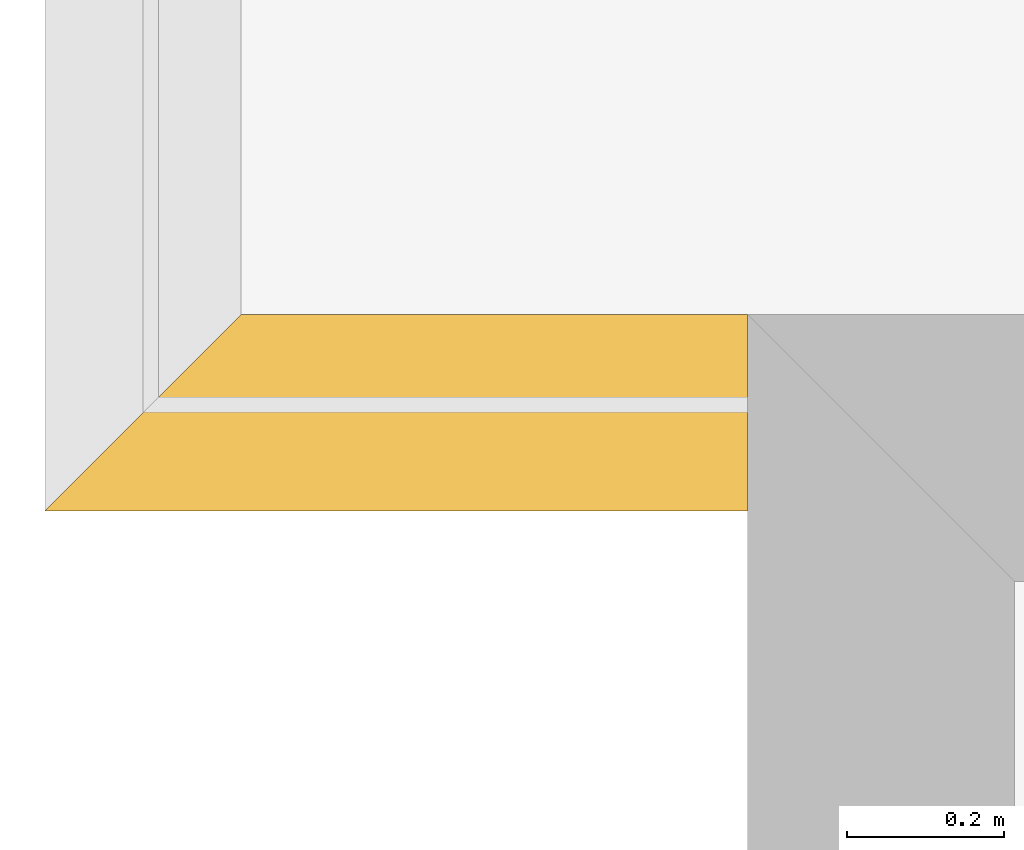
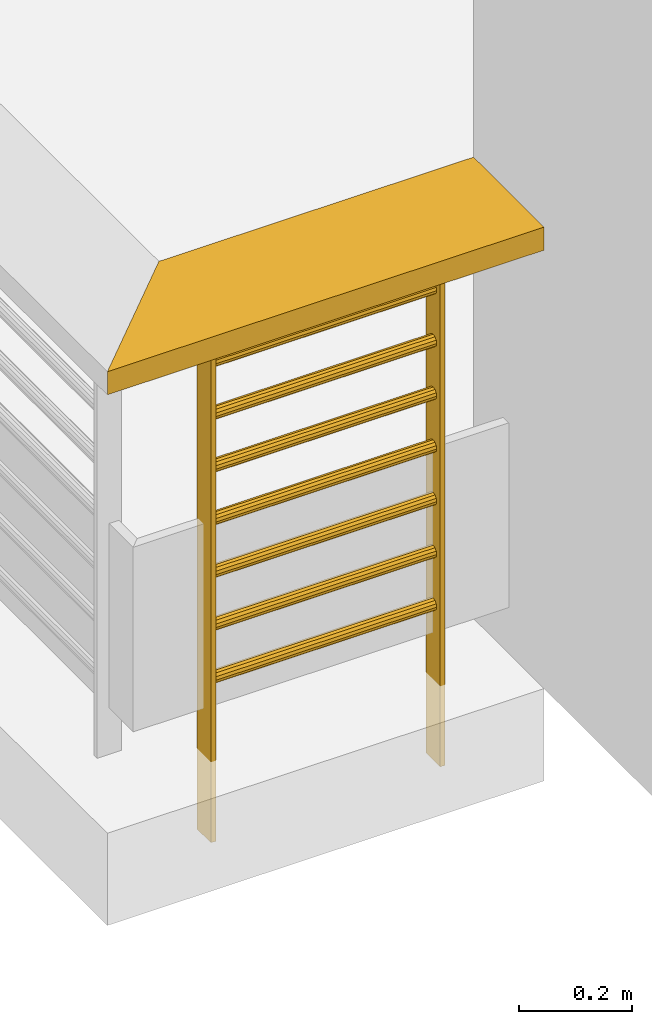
# One storey, part 102 of 164: 1 railing.
"""IFC2X3 building model written with IfcOpenShell, lengths in millimetres."""

from ifc_helpers import new_model, entity, si_unit, converted_unit, derived_unit, money_unit, direction, frame, origin_with_axes, place, context, subcontext, project, spatial, faceted_brep, type_object, element, save


model = new_model("IFC2X3")

# Units and contexts
model_context = context("Model", 3, precision=0.01, world=origin_with_axes(), true_north=direction((0.0, 1.0)))
body_context = subcontext(model_context, "Body", "Model", "MODEL_VIEW")
ifc_project = project(units=[si_unit("LENGTHUNIT", "METRE", prefix="MILLI"), si_unit("AREAUNIT", "SQUARE_METRE"), si_unit("VOLUMEUNIT", "CUBIC_METRE"), converted_unit("PLANEANGLEUNIT", "DEGREE", entity("IfcPlaneAngleMeasure", 0.0174532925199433), si_unit("PLANEANGLEUNIT", "RADIAN"), dimensions=[0, 0, 0, 0, 0, 0, 0]), money_unit("USD"), converted_unit("TIMEUNIT", "Year", entity("IfcTimeMeasure", 31557600.0), si_unit("TIMEUNIT", "SECOND"), dimensions=[0, 0, 1, 0, 0, 0, 0]), si_unit("MASSUNIT", "GRAM", prefix="KILO"), si_unit("THERMODYNAMICTEMPERATUREUNIT", "DEGREE_CELSIUS"), si_unit("LUMINOUSINTENSITYUNIT", "LUMEN"), si_unit("ENERGYUNIT", "JOULE", prefix="MEGA"), derived_unit("THERMALCONDUCTANCEUNIT", [(si_unit("POWERUNIT", "WATT"), 1), (si_unit("LENGTHUNIT", "METRE"), -1), (si_unit("THERMODYNAMICTEMPERATUREUNIT", "KELVIN"), -1)]), derived_unit("SPECIFICHEATCAPACITYUNIT", [(si_unit("ENERGYUNIT", "JOULE"), 1), (si_unit("MASSUNIT", "GRAM", prefix="KILO"), -1), (si_unit("THERMODYNAMICTEMPERATUREUNIT", "KELVIN"), -1)]), derived_unit("MASSDENSITYUNIT", [(si_unit("MASSUNIT", "GRAM", prefix="KILO"), 1), (si_unit("VOLUMEUNIT", "CUBIC_METRE"), -1)])], contexts=[model_context])

# Site, building, storey
site_placement = place(None, origin_with_axes())
site = spatial("IfcSite", under=ifc_project, at=site_placement, Name="Site", CompositionType="ELEMENT")
building_placement = place(site_placement, origin_with_axes())
building = spatial("IfcBuilding", under=site, at=building_placement, Name="Bâtiment", CompositionType="ELEMENT")
storey_placement = place(building_placement, frame((0.0, 0.0, 5750.0), z_axis=(0.0, 0.0, 1.0), x_axis=(1.0, 0.0, 0.0)))
storey = spatial("IfcBuildingStorey", under=building, at=storey_placement, Name="Etage1", CompositionType="ELEMENT", Elevation=5750.0)

# Railing
railing_type = type_object("IfcRailingType", Name="Cadre avec câble 01 20", PredefinedType="NOTDEFINED")
railing_placement = place(storey_placement, frame((2215864.230134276, -644141.3765232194, 0.0), z_axis=(0.0, 0.0, 1.0), x_axis=(1.0, 0.0, 0.0)))
element("IfcRailing", 1, at=railing_placement, inside=storey, type_object=railing_type, Name="Obj.-002", PredefinedType="NOTDEFINED", context=body_context, shape_type="Brep", body=[
    faceted_brep([(-124.9975968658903, -125.0, 950.0), (124.9975968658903, 125.0, 950.0), (770.0032105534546, 125.0, 950.0), (770.0032105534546, -125.0, 950.0), (-124.9975968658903, -125.0, 1000.0), (124.9975968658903, 125.0, 1000.0), (770.0032105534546, 125.0, 1000.0), (770.0032105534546, -125.0, 1000.0)], [[[0, 1, 2, 3]], [[0, 4, 5, 1]], [[2, 1, 5, 6]], [[3, 2, 6, 7]], [[4, 0, 3, 7]], [[5, 4, 7, 6]]]),
    faceted_brep([(145.0, -25.0, -176.0), (155.0, -25.0, -176.0), (155.0, -25.0, 950.0), (145.0, -25.0, 950.0), (145.0, 25.0, -176.0), (155.0, 25.0, -176.0), (155.0, 25.0, 950.0), (145.0, 25.0, 950.0)], [[[0, 1, 2, 3]], [[0, 4, 5, 1]], [[1, 5, 6, 2]], [[3, 2, 6, 7]], [[4, 0, 3, 7]], [[5, 4, 7, 6]]]),
    faceted_brep([(615.0032105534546, -25.0, -176.0), (625.0032105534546, -25.0, -176.0), (625.0032105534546, -25.0, 950.0), (615.0032105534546, -25.0, 950.0), (615.0032105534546, 25.0, -176.0), (625.0032105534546, 25.0, -176.0), (625.0032105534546, 25.0, 950.0), (615.0032105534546, 25.0, 950.0)], [[[0, 1, 2, 3]], [[0, 4, 5, 1]], [[1, 5, 6, 2]], [[3, 2, 6, 7]], [[4, 0, 3, 7]], [[5, 4, 7, 6]]]),
    faceted_brep([(155.0, 10.82531754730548, 156.25), (155.0, 12.5, 162.5), (615.0032105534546, 12.5, 162.5), (615.0032105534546, 10.82531754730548, 156.25), (155.0, 10.82531754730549, 168.75), (155.0, 6.249999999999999, 151.6746824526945), (155.0, 0.0, 150.0), (155.0, -6.250000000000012, 151.6746824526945), (155.0, -10.82531754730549, 156.25), (155.0, -12.5, 162.5), (155.0, -10.82531754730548, 168.75), (155.0, -6.249999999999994, 173.3253175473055), (155.0, 0.0, 175.0), (155.0, 6.250000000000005, 173.3253175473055), (615.0032105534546, 10.82531754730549, 168.75), (615.0032105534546, 6.250000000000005, 173.3253175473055), (615.0032105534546, 0.0, 175.0000000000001), (615.0032105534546, -6.249999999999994, 173.3253175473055), (615.0032105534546, -10.82531754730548, 168.75), (615.0032105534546, -12.5, 162.5), (615.0032105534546, -10.82531754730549, 156.2500000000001), (615.0032105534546, -6.250000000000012, 151.6746824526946), (615.0032105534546, 0.0, 150.0), (615.0032105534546, 6.249999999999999, 151.6746824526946)], [[[0, 1, 2, 3]], [[4, 1, 0, 5, 6, 7, 8, 9, 10, 11, 12, 13]], [[1, 4, 14, 2]], [[3, 2, 14, 15, 16, 17, 18, 19, 20, 21, 22, 23]], [[5, 0, 3, 23]], [[6, 5, 23, 22]], [[7, 6, 22, 21]], [[8, 7, 21, 20]], [[9, 8, 20, 19]], [[10, 9, 19, 18]], [[11, 10, 18, 17]], [[12, 11, 17, 16]], [[13, 12, 16, 15]], [[4, 13, 15, 14]]]),
    faceted_brep([(155.0, 10.82531754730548, 270.5357142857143), (155.0, 12.5, 276.7857142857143), (615.0032105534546, 12.5, 276.7857142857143), (615.0032105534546, 10.82531754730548, 270.5357142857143), (155.0, 10.82531754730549, 283.0357142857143), (155.0, 6.249999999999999, 265.9603967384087), (155.0, 0.0, 264.2857142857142), (155.0, -6.250000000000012, 265.9603967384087), (155.0, -10.82531754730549, 270.5357142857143), (155.0, -12.5, 276.7857142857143), (155.0, -10.82531754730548, 283.0357142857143), (155.0, -6.249999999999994, 287.6110318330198), (155.0, 0.0, 289.2857142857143), (155.0, 6.250000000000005, 287.6110318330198), (615.0032105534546, 10.82531754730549, 283.0357142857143), (615.0032105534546, 6.250000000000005, 287.6110318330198), (615.0032105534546, 0.0, 289.2857142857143), (615.0032105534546, -6.249999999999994, 287.6110318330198), (615.0032105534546, -10.82531754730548, 283.0357142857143), (615.0032105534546, -12.5, 276.7857142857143), (615.0032105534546, -10.82531754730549, 270.5357142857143), (615.0032105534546, -6.250000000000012, 265.9603967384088), (615.0032105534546, 0.0, 264.2857142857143), (615.0032105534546, 6.249999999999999, 265.9603967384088)], [[[0, 1, 2, 3]], [[4, 1, 0, 5, 6, 7, 8, 9, 10, 11, 12, 13]], [[1, 4, 14, 2]], [[3, 2, 14, 15, 16, 17, 18, 19, 20, 21, 22, 23]], [[5, 0, 3, 23]], [[6, 5, 23, 22]], [[7, 6, 22, 21]], [[8, 7, 21, 20]], [[9, 8, 20, 19]], [[10, 9, 19, 18]], [[11, 10, 18, 17]], [[12, 11, 17, 16]], [[13, 12, 16, 15]], [[4, 13, 15, 14]]]),
    faceted_brep([(155.0, 10.82531754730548, 384.8214285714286), (155.0, 12.5, 391.0714285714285), (615.0032105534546, 12.5, 391.0714285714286), (615.0032105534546, 10.82531754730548, 384.8214285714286), (155.0, 10.82531754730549, 397.3214285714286), (155.0, 6.249999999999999, 380.2461110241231), (155.0, 0.0, 378.5714285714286), (155.0, -6.250000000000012, 380.2461110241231), (155.0, -10.82531754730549, 384.8214285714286), (155.0, -12.5, 391.0714285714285), (155.0, -10.82531754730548, 397.3214285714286), (155.0, -6.249999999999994, 401.896746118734), (155.0, 0.0, 403.5714285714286), (155.0, 6.250000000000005, 401.896746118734), (615.0032105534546, 10.82531754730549, 397.3214285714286), (615.0032105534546, 6.250000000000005, 401.896746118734), (615.0032105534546, 0.0, 403.5714285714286), (615.0032105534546, -6.249999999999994, 401.896746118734), (615.0032105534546, -10.82531754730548, 397.3214285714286), (615.0032105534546, -12.5, 391.0714285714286), (615.0032105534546, -10.82531754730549, 384.8214285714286), (615.0032105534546, -6.250000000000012, 380.2461110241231), (615.0032105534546, 0.0, 378.5714285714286), (615.0032105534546, 6.249999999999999, 380.2461110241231)], [[[0, 1, 2, 3]], [[4, 1, 0, 5, 6, 7, 8, 9, 10, 11, 12, 13]], [[1, 4, 14, 2]], [[3, 2, 14, 15, 16, 17, 18, 19, 20, 21, 22, 23]], [[5, 0, 3, 23]], [[6, 5, 23, 22]], [[7, 6, 22, 21]], [[8, 7, 21, 20]], [[9, 8, 20, 19]], [[10, 9, 19, 18]], [[11, 10, 18, 17]], [[12, 11, 17, 16]], [[13, 12, 16, 15]], [[4, 13, 15, 14]]]),
    faceted_brep([(155.0, 10.82531754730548, 499.1071428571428), (155.0, 12.5, 505.3571428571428), (615.0032105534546, 12.5, 505.3571428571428), (615.0032105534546, 10.82531754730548, 499.1071428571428), (155.0, 10.82531754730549, 511.6071428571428), (155.0, 6.249999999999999, 494.5318253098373), (155.0, 0.0, 492.8571428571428), (155.0, -6.250000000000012, 494.5318253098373), (155.0, -10.82531754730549, 499.1071428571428), (155.0, -12.5, 505.3571428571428), (155.0, -10.82531754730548, 511.6071428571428), (155.0, -6.249999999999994, 516.1824604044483), (155.0, 0.0, 517.8571428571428), (155.0, 6.250000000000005, 516.1824604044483), (615.0032105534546, 10.82531754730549, 511.6071428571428), (615.0032105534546, 6.250000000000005, 516.1824604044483), (615.0032105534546, 0.0, 517.8571428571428), (615.0032105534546, -6.249999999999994, 516.1824604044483), (615.0032105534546, -10.82531754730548, 511.6071428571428), (615.0032105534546, -12.5, 505.3571428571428), (615.0032105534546, -10.82531754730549, 499.1071428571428), (615.0032105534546, -6.250000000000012, 494.5318253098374), (615.0032105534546, 0.0, 492.8571428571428), (615.0032105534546, 6.249999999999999, 494.5318253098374)], [[[0, 1, 2, 3]], [[4, 1, 0, 5, 6, 7, 8, 9, 10, 11, 12, 13]], [[1, 4, 14, 2]], [[3, 2, 14, 15, 16, 17, 18, 19, 20, 21, 22, 23]], [[5, 0, 3, 23]], [[6, 5, 23, 22]], [[7, 6, 22, 21]], [[8, 7, 21, 20]], [[9, 8, 20, 19]], [[10, 9, 19, 18]], [[11, 10, 18, 17]], [[12, 11, 17, 16]], [[13, 12, 16, 15]], [[4, 13, 15, 14]]]),
    faceted_brep([(155.0, 10.82531754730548, 613.3928571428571), (155.0, 12.5, 619.642857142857), (615.0032105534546, 12.5, 619.6428571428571), (615.0032105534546, 10.82531754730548, 613.3928571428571), (155.0, 10.82531754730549, 625.892857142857), (155.0, 6.249999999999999, 608.8175395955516), (155.0, 0.0, 607.1428571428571), (155.0, -6.250000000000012, 608.8175395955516), (155.0, -10.82531754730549, 613.3928571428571), (155.0, -12.5, 619.642857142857), (155.0, -10.82531754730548, 625.892857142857), (155.0, -6.249999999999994, 630.4681746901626), (155.0, 0.0, 632.1428571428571), (155.0, 6.250000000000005, 630.4681746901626), (615.0032105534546, 10.82531754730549, 625.8928571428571), (615.0032105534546, 6.250000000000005, 630.4681746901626), (615.0032105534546, 0.0, 632.1428571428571), (615.0032105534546, -6.249999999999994, 630.4681746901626), (615.0032105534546, -10.82531754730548, 625.8928571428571), (615.0032105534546, -12.5, 619.6428571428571), (615.0032105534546, -10.82531754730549, 613.3928571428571), (615.0032105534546, -6.250000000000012, 608.8175395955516), (615.0032105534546, 0.0, 607.1428571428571), (615.0032105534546, 6.249999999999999, 608.8175395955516)], [[[0, 1, 2, 3]], [[4, 1, 0, 5, 6, 7, 8, 9, 10, 11, 12, 13]], [[1, 4, 14, 2]], [[3, 2, 14, 15, 16, 17, 18, 19, 20, 21, 22, 23]], [[5, 0, 3, 23]], [[6, 5, 23, 22]], [[7, 6, 22, 21]], [[8, 7, 21, 20]], [[9, 8, 20, 19]], [[10, 9, 19, 18]], [[11, 10, 18, 17]], [[12, 11, 17, 16]], [[13, 12, 16, 15]], [[4, 13, 15, 14]]]),
    faceted_brep([(155.0, 10.82531754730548, 727.6785714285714), (155.0, 12.5, 733.9285714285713), (615.0032105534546, 12.5, 733.9285714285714), (615.0032105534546, 10.82531754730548, 727.6785714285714), (155.0, 10.82531754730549, 740.1785714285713), (155.0, 6.249999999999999, 723.1032538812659), (155.0, 0.0, 721.4285714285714), (155.0, -6.250000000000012, 723.1032538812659), (155.0, -10.82531754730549, 727.6785714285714), (155.0, -12.5, 733.9285714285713), (155.0, -10.82531754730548, 740.1785714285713), (155.0, -6.249999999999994, 744.7538889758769), (155.0, 0.0, 746.4285714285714), (155.0, 6.250000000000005, 744.7538889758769), (615.0032105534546, 10.82531754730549, 740.1785714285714), (615.0032105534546, 6.250000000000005, 744.7538889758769), (615.0032105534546, 0.0, 746.4285714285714), (615.0032105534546, -6.249999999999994, 744.7538889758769), (615.0032105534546, -10.82531754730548, 740.1785714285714), (615.0032105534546, -12.5, 733.9285714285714), (615.0032105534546, -10.82531754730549, 727.6785714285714), (615.0032105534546, -6.250000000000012, 723.1032538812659), (615.0032105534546, 0.0, 721.4285714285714), (615.0032105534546, 6.249999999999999, 723.1032538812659)], [[[0, 1, 2, 3]], [[4, 1, 0, 5, 6, 7, 8, 9, 10, 11, 12, 13]], [[1, 4, 14, 2]], [[3, 2, 14, 15, 16, 17, 18, 19, 20, 21, 22, 23]], [[5, 0, 3, 23]], [[6, 5, 23, 22]], [[7, 6, 22, 21]], [[8, 7, 21, 20]], [[9, 8, 20, 19]], [[10, 9, 19, 18]], [[11, 10, 18, 17]], [[12, 11, 17, 16]], [[13, 12, 16, 15]], [[4, 13, 15, 14]]]),
    faceted_brep([(155.0, 10.82531754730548, 841.9642857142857), (155.0, 12.5, 848.2142857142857), (615.0032105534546, 12.5, 848.2142857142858), (615.0032105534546, 10.82531754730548, 841.9642857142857), (155.0, 10.82531754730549, 854.4642857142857), (155.0, 6.249999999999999, 837.3889681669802), (155.0, 0.0, 835.7142857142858), (155.0, -6.250000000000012, 837.3889681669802), (155.0, -10.82531754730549, 841.9642857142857), (155.0, -12.5, 848.2142857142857), (155.0, -10.82531754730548, 854.4642857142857), (155.0, -6.249999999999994, 859.0396032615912), (155.0, 0.0, 860.7142857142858), (155.0, 6.250000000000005, 859.0396032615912), (615.0032105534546, 10.82531754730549, 854.4642857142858), (615.0032105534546, 6.250000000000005, 859.0396032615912), (615.0032105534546, 0.0, 860.7142857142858), (615.0032105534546, -6.249999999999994, 859.0396032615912), (615.0032105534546, -10.82531754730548, 854.4642857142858), (615.0032105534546, -12.5, 848.2142857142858), (615.0032105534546, -10.82531754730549, 841.9642857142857), (615.0032105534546, -6.250000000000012, 837.3889681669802), (615.0032105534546, 0.0, 835.7142857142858), (615.0032105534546, 6.249999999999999, 837.3889681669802)], [[[0, 1, 2, 3]], [[4, 1, 0, 5, 6, 7, 8, 9, 10, 11, 12, 13]], [[1, 4, 14, 2]], [[3, 2, 14, 15, 16, 17, 18, 19, 20, 21, 22, 23]], [[5, 0, 3, 23]], [[6, 5, 23, 22]], [[7, 6, 22, 21]], [[8, 7, 21, 20]], [[9, 8, 20, 19]], [[10, 9, 19, 18]], [[11, 10, 18, 17]], [[12, 11, 17, 16]], [[13, 12, 16, 15]], [[4, 13, 15, 14]]]),
])

save(model, "model.ifc")
